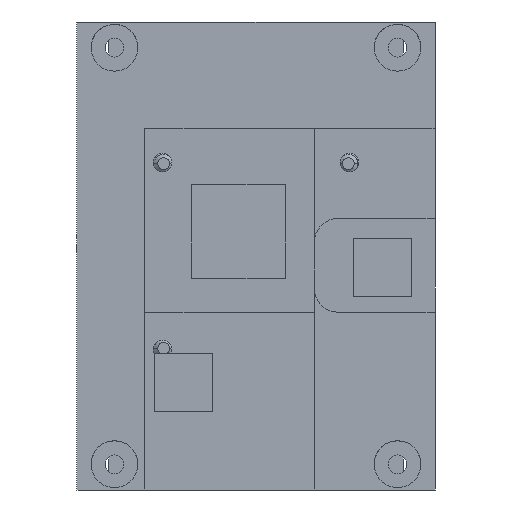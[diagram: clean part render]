
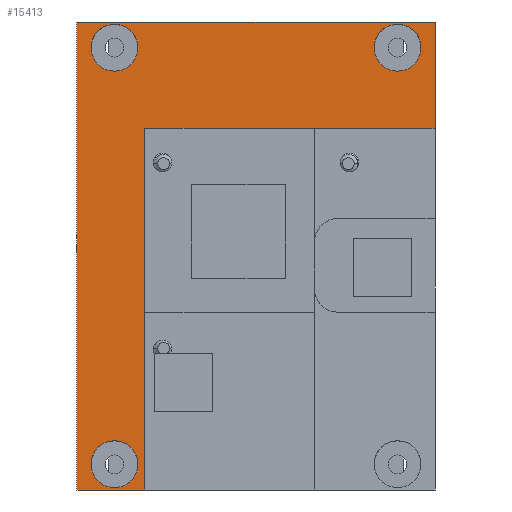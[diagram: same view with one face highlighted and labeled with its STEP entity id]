
A CAD part, front view. The second image highlights one B-rep face of the part: STEP entity #15413.
In plain terms, the highlighted planar face has unit normal (0, 1, 0).
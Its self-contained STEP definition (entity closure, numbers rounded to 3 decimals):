
#9019=DIRECTION('',(-1.,0.,0.));
#9020=VECTOR('',#9019,30.6);
#9021=CARTESIAN_POINT('',(15.3,1.,20.));
#9022=LINE('',#9021,#9020);
#9026=DIRECTION('',(0.,0.,-1.));
#9027=VECTOR('',#9026,40.);
#9028=CARTESIAN_POINT('',(-15.3,1.,20.));
#9029=LINE('',#9028,#9027);
#9033=DIRECTION('',(1.,0.,0.));
#9034=VECTOR('',#9033,5.8);
#9035=CARTESIAN_POINT('',(-15.3,1.,-20.));
#9036=LINE('',#9035,#9034);
#9040=CARTESIAN_POINT('',(-12.1,1.,-17.8));
#9041=DIRECTION('',(0.,1.,0.));
#9042=DIRECTION('',(1.,0.,0.));
#9043=AXIS2_PLACEMENT_3D('',#9040,#9041,#9042);
#9048=CARTESIAN_POINT('',(-14.1,1.,-17.8));
#9049=CARTESIAN_POINT('',(-14.099,1.,-17.635));
#9050=CARTESIAN_POINT('',(-14.061,1.,-17.315));
#9051=CARTESIAN_POINT('',(-13.886,1.,-16.857));
#9052=CARTESIAN_POINT('',(-13.608,1.,-16.457));
#9053=CARTESIAN_POINT('',(-13.248,1.,-16.139));
#9054=CARTESIAN_POINT('',(-12.818,1.,-15.913));
#9055=CARTESIAN_POINT('',(-12.348,1.,-15.796));
#9056=CARTESIAN_POINT('',(-11.864,1.,-15.795));
#9057=CARTESIAN_POINT('',(-11.394,1.,-15.908));
#9058=CARTESIAN_POINT('',(-10.963,1.,-16.131));
#9059=CARTESIAN_POINT('',(-10.599,1.,-16.449));
#9060=CARTESIAN_POINT('',(-10.316,1.,-16.851));
#9061=CARTESIAN_POINT('',(-10.14,1.,-17.314));
#9062=CARTESIAN_POINT('',(-10.1,1.,-17.634));
#9063=CARTESIAN_POINT('',(-10.1,1.,-17.8));
#9068=CARTESIAN_POINT('',(12.1,1.,17.8));
#9069=DIRECTION('',(0.,1.,0.));
#9070=DIRECTION('',(1.,0.,0.));
#9071=AXIS2_PLACEMENT_3D('',#9068,#9069,#9070);
#9076=CARTESIAN_POINT('',(10.1,1.,17.8));
#9077=CARTESIAN_POINT('',(10.101,1.,17.965));
#9078=CARTESIAN_POINT('',(10.139,1.,18.285));
#9079=CARTESIAN_POINT('',(10.314,1.,18.743));
#9080=CARTESIAN_POINT('',(10.592,1.,19.143));
#9081=CARTESIAN_POINT('',(10.952,1.,19.461));
#9082=CARTESIAN_POINT('',(11.382,1.,19.687));
#9083=CARTESIAN_POINT('',(11.852,1.,19.804));
#9084=CARTESIAN_POINT('',(12.336,1.,19.805));
#9085=CARTESIAN_POINT('',(12.806,1.,19.692));
#9086=CARTESIAN_POINT('',(13.237,1.,19.469));
#9087=CARTESIAN_POINT('',(13.601,1.,19.151));
#9088=CARTESIAN_POINT('',(13.884,1.,18.749));
#9089=CARTESIAN_POINT('',(14.06,1.,18.286));
#9090=CARTESIAN_POINT('',(14.1,1.,17.966));
#9091=CARTESIAN_POINT('',(14.1,1.,17.8));
#9096=CARTESIAN_POINT('',(-12.1,1.,17.8));
#9097=DIRECTION('',(0.,1.,0.));
#9098=DIRECTION('',(1.,0.,0.));
#9099=AXIS2_PLACEMENT_3D('',#9096,#9097,#9098);
#9104=CARTESIAN_POINT('',(-14.1,1.,17.8));
#9105=CARTESIAN_POINT('',(-14.099,1.,17.965));
#9106=CARTESIAN_POINT('',(-14.061,1.,18.285));
#9107=CARTESIAN_POINT('',(-13.886,1.,18.743));
#9108=CARTESIAN_POINT('',(-13.608,1.,19.143));
#9109=CARTESIAN_POINT('',(-13.248,1.,19.461));
#9110=CARTESIAN_POINT('',(-12.818,1.,19.687));
#9111=CARTESIAN_POINT('',(-12.348,1.,19.804));
#9112=CARTESIAN_POINT('',(-11.864,1.,19.805));
#9113=CARTESIAN_POINT('',(-11.394,1.,19.692));
#9114=CARTESIAN_POINT('',(-10.963,1.,19.469));
#9115=CARTESIAN_POINT('',(-10.599,1.,19.151));
#9116=CARTESIAN_POINT('',(-10.316,1.,18.749));
#9117=CARTESIAN_POINT('',(-10.14,1.,18.286));
#9118=CARTESIAN_POINT('',(-10.1,1.,17.966));
#9119=CARTESIAN_POINT('',(-10.1,1.,17.8));
#9124=DIRECTION('',(1.,0.,0.));
#9125=VECTOR('',#9124,24.8);
#9126=CARTESIAN_POINT('',(-9.5,1.,10.9));
#9127=LINE('',#9126,#9125);
#9159=DIRECTION('',(0.,0.,1.));
#9160=VECTOR('',#9159,30.9);
#9161=CARTESIAN_POINT('',(-9.5,1.,-20.));
#9162=LINE('',#9161,#9160);
#9289=DIRECTION('',(0.,0.,-1.));
#9290=VECTOR('',#9289,9.1);
#9291=CARTESIAN_POINT('',(15.3,1.,20.));
#9292=LINE('',#9291,#9290);
#14253=VERTEX_POINT('',#9048);
#14254=VERTEX_POINT('',#9063);
#14255=VERTEX_POINT('',#9076);
#14256=VERTEX_POINT('',#9091);
#14257=VERTEX_POINT('',#9104);
#14258=VERTEX_POINT('',#9119);
#14272=CARTESIAN_POINT('',(-9.5,1.,10.9));
#14274=VERTEX_POINT('',#14272);
#14469=CARTESIAN_POINT('',(-15.3,1.,-20.));
#14470=CARTESIAN_POINT('',(-9.5,1.,-20.));
#14471=VERTEX_POINT('',#14469);
#14472=VERTEX_POINT('',#14470);
#14727=CARTESIAN_POINT('',(15.3,1.,20.));
#14728=VERTEX_POINT('',#14727);
#14729=CARTESIAN_POINT('',(-15.3,1.,20.));
#14730=VERTEX_POINT('',#14729);
#14809=CARTESIAN_POINT('',(15.3,1.,10.9));
#14810=VERTEX_POINT('',#14809);
#15378=CARTESIAN_POINT('',(0.,1.,0.));
#15379=DIRECTION('',(0.,1.,0.));
#15380=DIRECTION('',(1.,0.,0.));
#15381=AXIS2_PLACEMENT_3D('',#15378,#15379,#15380);
#15382=PLANE('',#15381);
#15384=ORIENTED_EDGE('',*,*,#15383,.T.);
#15386=ORIENTED_EDGE('',*,*,#15385,.F.);
#15388=ORIENTED_EDGE('',*,*,#15387,.T.);
#15389=ORIENTED_EDGE('',*,*,#15369,.T.);
#15390=ORIENTED_EDGE('',*,*,#15318,.T.);
#15392=ORIENTED_EDGE('',*,*,#15391,.T.);
#15393=EDGE_LOOP('',(#15384,#15386,#15388,#15389,#15390,#15392));
#15394=FACE_OUTER_BOUND('',#15393,.F.);
#15396=ORIENTED_EDGE('',*,*,#15395,.T.);
#15398=ORIENTED_EDGE('',*,*,#15397,.T.);
#15399=EDGE_LOOP('',(#15396,#15398));
#15400=FACE_BOUND('',#15399,.F.);
#15402=ORIENTED_EDGE('',*,*,#15401,.T.);
#15404=ORIENTED_EDGE('',*,*,#15403,.T.);
#15405=EDGE_LOOP('',(#15402,#15404));
#15406=FACE_BOUND('',#15405,.F.);
#15408=ORIENTED_EDGE('',*,*,#15407,.T.);
#15410=ORIENTED_EDGE('',*,*,#15409,.T.);
#15411=EDGE_LOOP('',(#15408,#15410));
#15412=FACE_BOUND('',#15411,.F.);
#9044=CIRCLE('',#9043,2.);
#9064=B_SPLINE_CURVE_WITH_KNOTS('',3,(#9048,#9049,#9050,#9051,#9052,#9053,#9054,
#9055,#9056,#9057,#9058,#9059,#9060,#9061,#9062,#9063),.UNSPECIFIED.,.F.,.F.,(4,
1,1,1,1,1,1,1,1,1,1,1,1,4),(0.,0.077,0.154,
0.231,0.308,0.385,0.462,
0.538,0.615,0.692,0.769,
0.846,0.923,1.),.UNSPECIFIED.);
#9072=CIRCLE('',#9071,2.);
#9092=B_SPLINE_CURVE_WITH_KNOTS('',3,(#9076,#9077,#9078,#9079,#9080,#9081,#9082,
#9083,#9084,#9085,#9086,#9087,#9088,#9089,#9090,#9091),.UNSPECIFIED.,.F.,.F.,(4,
1,1,1,1,1,1,1,1,1,1,1,1,4),(0.,0.077,0.154,
0.231,0.308,0.385,0.462,
0.538,0.615,0.692,0.769,
0.846,0.923,1.),.UNSPECIFIED.);
#9100=CIRCLE('',#9099,2.);
#9120=B_SPLINE_CURVE_WITH_KNOTS('',3,(#9104,#9105,#9106,#9107,#9108,#9109,#9110,
#9111,#9112,#9113,#9114,#9115,#9116,#9117,#9118,#9119),.UNSPECIFIED.,.F.,.F.,(4,
1,1,1,1,1,1,1,1,1,1,1,1,4),(0.,0.077,0.154,
0.231,0.308,0.385,0.462,
0.538,0.615,0.692,0.769,
0.846,0.923,1.),.UNSPECIFIED.);
#15318=EDGE_CURVE('',#14471,#14472,#9036,.T.);
#15369=EDGE_CURVE('',#14730,#14471,#9029,.T.);
#15383=EDGE_CURVE('',#14274,#14810,#9127,.T.);
#15385=EDGE_CURVE('',#14728,#14810,#9292,.T.);
#15387=EDGE_CURVE('',#14728,#14730,#9022,.T.);
#15391=EDGE_CURVE('',#14472,#14274,#9162,.T.);
#15395=EDGE_CURVE('',#14254,#14253,#9044,.T.);
#15397=EDGE_CURVE('',#14253,#14254,#9064,.T.);
#15401=EDGE_CURVE('',#14256,#14255,#9072,.T.);
#15403=EDGE_CURVE('',#14255,#14256,#9092,.T.);
#15407=EDGE_CURVE('',#14258,#14257,#9100,.T.);
#15409=EDGE_CURVE('',#14257,#14258,#9120,.T.);
#15413=ADVANCED_FACE('',(#15394,#15400,#15406,#15412),#15382,.T.);
